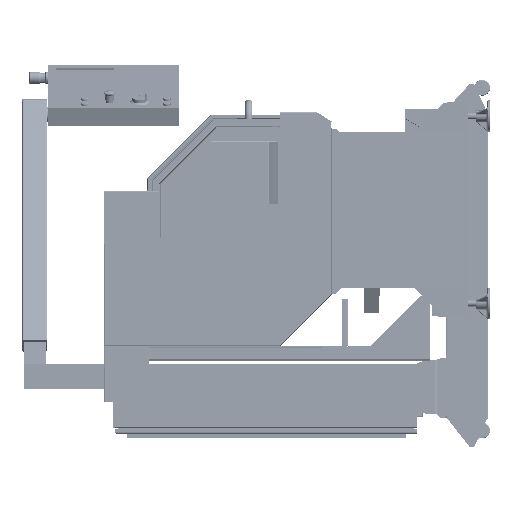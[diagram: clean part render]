
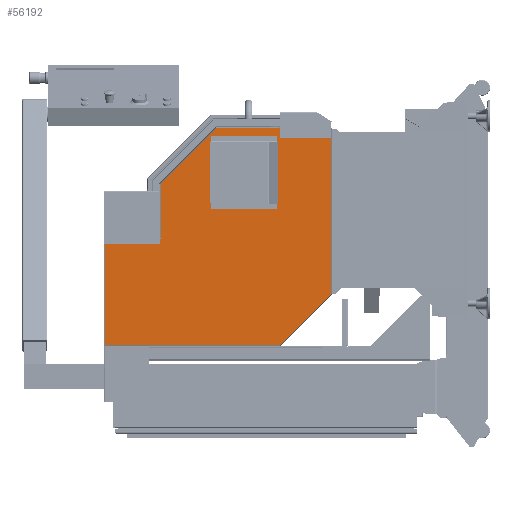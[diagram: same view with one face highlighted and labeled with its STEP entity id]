
A CAD part, left-side view. The second image highlights one B-rep face of the part: STEP entity #56192.
In plain terms, the highlighted planar face has unit normal (-1, 0, 0).
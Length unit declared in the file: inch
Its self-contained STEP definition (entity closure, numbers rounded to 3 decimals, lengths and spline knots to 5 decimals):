
#2117 = LINE ( 'NONE', #31272, #372676 ) ;
#2779 = DIRECTION ( 'NONE',  ( 0., 0., -1. ) ) ;
#6343 = CARTESIAN_POINT ( 'NONE',  ( -33.39788, 33.6553, -4.89871 ) ) ;
#11883 = VECTOR ( 'NONE', #2779, 39.37008 ) ;
#12942 = VERTEX_POINT ( 'NONE', #255337 ) ;
#16227 = LINE ( 'NONE', #134863, #19571 ) ;
#19571 = VECTOR ( 'NONE', #105704, 39.37008 ) ;
#21269 = DIRECTION ( 'NONE',  ( 0., 1., 0. ) ) ;
#27336 = CARTESIAN_POINT ( 'NONE',  ( -33.39788, 25.2484, -19.31857 ) ) ;
#31272 = CARTESIAN_POINT ( 'NONE',  ( -33.39788, 44.3747, -4.89871 ) ) ;
#34404 = VECTOR ( 'NONE', #230654, 39.37008 ) ;
#39402 = LINE ( 'NONE', #70484, #195369 ) ;
#43534 = VERTEX_POINT ( 'NONE', #140810 ) ;
#46455 = EDGE_LOOP ( 'NONE', ( #231255, #230818, #274483, #359934, #67132, #359425, #373401, #69461, #101298, #180516 ) ) ;
#51084 = VECTOR ( 'NONE', #68522, 39.37008 ) ;
#56080 = EDGE_CURVE ( 'NONE', #313236, #69774, #39402, .T. ) ;
#56192 = ADVANCED_FACE ( 'NONE', ( #72430, #109277 ), #346520, .F. ) ;
#59382 = VECTOR ( 'NONE', #334379, 39.37008 ) ;
#67088 = DIRECTION ( 'NONE',  ( 0., 0., -1. ) ) ;
#67132 = ORIENTED_EDGE ( 'NONE', *, *, #188527, .T. ) ;
#68522 = DIRECTION ( 'NONE',  ( 0., 0., 1. ) ) ;
#69461 = ORIENTED_EDGE ( 'NONE', *, *, #94067, .T. ) ;
#69774 = VERTEX_POINT ( 'NONE', #164832 ) ;
#70484 = CARTESIAN_POINT ( 'NONE',  ( -33.39788, 52.27384, -1.82984 ) ) ;
#72430 = FACE_BOUND ( 'NONE', #184488, .T. ) ;
#72569 = VERTEX_POINT ( 'NONE', #283506 ) ;
#77600 = EDGE_CURVE ( 'NONE', #333697, #313236, #87752, .T. ) ;
#86344 = CARTESIAN_POINT ( 'NONE',  ( -33.39788, 33.6553, -4.89871 ) ) ;
#86829 = VERTEX_POINT ( 'NONE', #27336 ) ;
#87752 = LINE ( 'NONE', #297723, #255659 ) ;
#91505 = EDGE_CURVE ( 'NONE', #259421, #127381, #194408, .T. ) ;
#91598 = DIRECTION ( 'NONE',  ( 0., 0.707, -0.707 ) ) ;
#94067 = EDGE_CURVE ( 'NONE', #69774, #114391, #234282, .T. ) ;
#99696 = DIRECTION ( 'NONE',  ( 0., 0., -1. ) ) ;
#101033 = VECTOR ( 'NONE', #239751, 39.37008 ) ;
#101298 = ORIENTED_EDGE ( 'NONE', *, *, #326247, .T. ) ;
#105704 = DIRECTION ( 'NONE',  ( 0., 1., 0. ) ) ;
#109277 = FACE_OUTER_BOUND ( 'NONE', #46455, .T. ) ;
#114391 = VERTEX_POINT ( 'NONE', #285074 ) ;
#127381 = VERTEX_POINT ( 'NONE', #340137 ) ;
#130158 = VERTEX_POINT ( 'NONE', #86344 ) ;
#130997 = EDGE_CURVE ( 'NONE', #72569, #86829, #145013, .T. ) ;
#132171 = ORIENTED_EDGE ( 'NONE', *, *, #91505, .F. ) ;
#134863 = CARTESIAN_POINT ( 'NONE',  ( -33.39788, 61.1513, -10.48138 ) ) ;
#139528 = CARTESIAN_POINT ( 'NONE',  ( -33.39788, 52.27384, -1.82984 ) ) ;
#140810 = CARTESIAN_POINT ( 'NONE',  ( -33.39788, 61.1513, -27.40384 ) ) ;
#141095 = CARTESIAN_POINT ( 'NONE',  ( -33.39788, 43.39428, 7.04972 ) ) ;
#145013 = LINE ( 'NONE', #172307, #34404 ) ;
#146204 = VECTOR ( 'NONE', #148365, 39.37008 ) ;
#148365 = DIRECTION ( 'NONE',  ( 0., -1., 0. ) ) ;
#148777 = DIRECTION ( 'NONE',  ( 0., 0., -1. ) ) ;
#155523 = ORIENTED_EDGE ( 'NONE', *, *, #278453, .F. ) ;
#159169 = EDGE_CURVE ( 'NONE', #341615, #43534, #263581, .T. ) ;
#159298 = CARTESIAN_POINT ( 'NONE',  ( -33.39788, 33.6553, 4.89869 ) ) ;
#164832 = CARTESIAN_POINT ( 'NONE',  ( -33.39788, 52.27384, -10.38138 ) ) ;
#172307 = CARTESIAN_POINT ( 'NONE',  ( -33.39788, 25.2484, -19.31857 ) ) ;
#172469 = EDGE_CURVE ( 'NONE', #12942, #341615, #241079, .T. ) ;
#175043 = ORIENTED_EDGE ( 'NONE', *, *, #273482, .F. ) ;
#180516 = ORIENTED_EDGE ( 'NONE', *, *, #172469, .T. ) ;
#184488 = EDGE_LOOP ( 'NONE', ( #316781, #132171, #155523, #175043 ) ) ;
#188527 = EDGE_CURVE ( 'NONE', #291280, #333697, #291566, .T. ) ;
#189248 = AXIS2_PLACEMENT_3D ( 'NONE', #253225, #191083, #371922 ) ;
#189592 = LINE ( 'NONE', #366572, #258605 ) ;
#191083 = DIRECTION ( 'NONE',  ( 1., 0., 0. ) ) ;
#194408 = LINE ( 'NONE', #311129, #321235 ) ;
#195369 = VECTOR ( 'NONE', #99696, 39.37008 ) ;
#200816 = EDGE_CURVE ( 'NONE', #86829, #291280, #290461, .T. ) ;
#207116 = EDGE_CURVE ( 'NONE', #127381, #355748, #189592, .T. ) ;
#223725 = EDGE_CURVE ( 'NONE', #43534, #72569, #288513, .T. ) ;
#230654 = DIRECTION ( 'NONE',  ( 0., -0.707, 0.707 ) ) ;
#230818 = ORIENTED_EDGE ( 'NONE', *, *, #223725, .T. ) ;
#231255 = ORIENTED_EDGE ( 'NONE', *, *, #159169, .T. ) ;
#234282 = LINE ( 'NONE', #296467, #11883 ) ;
#239751 = DIRECTION ( 'NONE',  ( 0., 0., 1. ) ) ;
#241079 = LINE ( 'NONE', #359760, #59382 ) ;
#253225 = CARTESIAN_POINT ( 'NONE',  ( -33.39788, 39.5, -0.00001 ) ) ;
#255337 = CARTESIAN_POINT ( 'NONE',  ( -33.39788, 52.37384, -10.48138 ) ) ;
#255659 = VECTOR ( 'NONE', #91598, 39.37008 ) ;
#258605 = VECTOR ( 'NONE', #67088, 39.37008 ) ;
#259297 = VECTOR ( 'NONE', #21269, 39.37008 ) ;
#259421 = VERTEX_POINT ( 'NONE', #159298 ) ;
#263581 = LINE ( 'NONE', #382284, #280529 ) ;
#267001 = CARTESIAN_POINT ( 'NONE',  ( -33.39788, 61.1513, -27.40384 ) ) ;
#267995 = CARTESIAN_POINT ( 'NONE',  ( -33.39788, 25.2484, 7.04972 ) ) ;
#273482 = EDGE_CURVE ( 'NONE', #355748, #130158, #2117, .T. ) ;
#274483 = ORIENTED_EDGE ( 'NONE', *, *, #130997, .T. ) ;
#278453 = EDGE_CURVE ( 'NONE', #130158, #259421, #331201, .T. ) ;
#280529 = VECTOR ( 'NONE', #148777, 39.37008 ) ;
#283506 = CARTESIAN_POINT ( 'NONE',  ( -33.39788, 33.33367, -27.40384 ) ) ;
#285074 = CARTESIAN_POINT ( 'NONE',  ( -33.39788, 52.27384, -10.48138 ) ) ;
#288513 = LINE ( 'NONE', #267001, #146204 ) ;
#290461 = LINE ( 'NONE', #378041, #101033 ) ;
#291280 = VERTEX_POINT ( 'NONE', #267995 ) ;
#291566 = LINE ( 'NONE', #344199, #259297 ) ;
#296467 = CARTESIAN_POINT ( 'NONE',  ( -33.39788, 52.27384, -1.82984 ) ) ;
#297723 = CARTESIAN_POINT ( 'NONE',  ( -33.39788, 43.39428, 7.04972 ) ) ;
#309328 = CARTESIAN_POINT ( 'NONE',  ( -33.39788, 44.3747, -4.89871 ) ) ;
#311129 = CARTESIAN_POINT ( 'NONE',  ( -33.39788, 44.3747, 4.89869 ) ) ;
#313236 = VERTEX_POINT ( 'NONE', #139528 ) ;
#316781 = ORIENTED_EDGE ( 'NONE', *, *, #207116, .F. ) ;
#321235 = VECTOR ( 'NONE', #346035, 39.37008 ) ;
#326247 = EDGE_CURVE ( 'NONE', #114391, #12942, #16227, .T. ) ;
#331201 = LINE ( 'NONE', #6343, #51084 ) ;
#333697 = VERTEX_POINT ( 'NONE', #141095 ) ;
#334379 = DIRECTION ( 'NONE',  ( 0., 1., 0. ) ) ;
#340137 = CARTESIAN_POINT ( 'NONE',  ( -33.39788, 44.3747, 4.89869 ) ) ;
#341615 = VERTEX_POINT ( 'NONE', #347531 ) ;
#344199 = CARTESIAN_POINT ( 'NONE',  ( -33.39788, 25.2484, 7.04972 ) ) ;
#346035 = DIRECTION ( 'NONE',  ( 0., 1., 0. ) ) ;
#346520 = PLANE ( 'NONE',  #189248 ) ;
#347531 = CARTESIAN_POINT ( 'NONE',  ( -33.39788, 61.1513, -10.48138 ) ) ;
#355748 = VERTEX_POINT ( 'NONE', #309328 ) ;
#359425 = ORIENTED_EDGE ( 'NONE', *, *, #77600, .T. ) ;
#359760 = CARTESIAN_POINT ( 'NONE',  ( -33.39788, 52.37384, -10.48138 ) ) ;
#359934 = ORIENTED_EDGE ( 'NONE', *, *, #200816, .T. ) ;
#361859 = DIRECTION ( 'NONE',  ( 0., -1., 0. ) ) ;
#366572 = CARTESIAN_POINT ( 'NONE',  ( -33.39788, 44.3747, -4.89871 ) ) ;
#371922 = DIRECTION ( 'NONE',  ( 0., 1., 0. ) ) ;
#372676 = VECTOR ( 'NONE', #361859, 39.37008 ) ;
#373401 = ORIENTED_EDGE ( 'NONE', *, *, #56080, .T. ) ;
#378041 = CARTESIAN_POINT ( 'NONE',  ( -33.39788, 25.2484, -19.31857 ) ) ;
#382284 = CARTESIAN_POINT ( 'NONE',  ( -33.39788, 61.1513, -10.48138 ) ) ;
